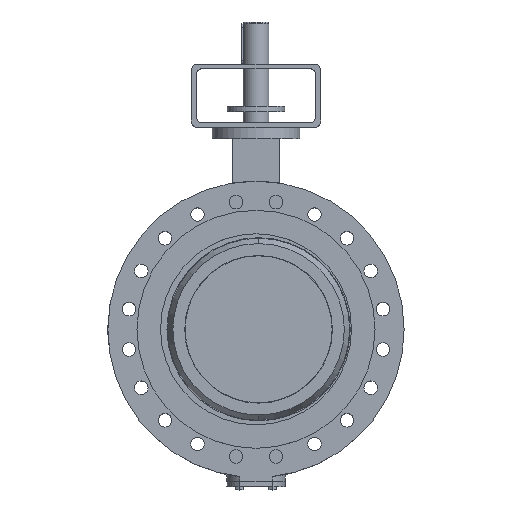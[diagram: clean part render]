
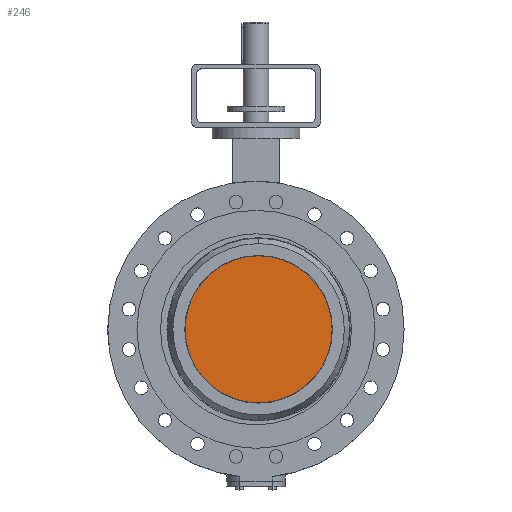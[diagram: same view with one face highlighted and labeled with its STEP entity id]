
A CAD part, top view. The second image highlights one B-rep face of the part: STEP entity #246.
In plain terms, the highlighted planar face has unit normal (0, 0, 1).
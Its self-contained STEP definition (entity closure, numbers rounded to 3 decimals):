
#246 = ADVANCED_FACE( '', ( #697 ), #698, .T. );
#697 = FACE_OUTER_BOUND( '', #1271, .T. );
#698 = PLANE( '', #1272 );
#1271 = EDGE_LOOP( '', ( #2818, #2819 ) );
#1272 = AXIS2_PLACEMENT_3D( '', #2820, #2821, #2822 );
#2818 = ORIENTED_EDGE( '', *, *, #3584, .T. );
#2819 = ORIENTED_EDGE( '', *, *, #3952, .T. );
#2820 = CARTESIAN_POINT( '', ( 8., 113.5, 93.6 ) );
#2821 = DIRECTION( '', ( 0., 0., 1. ) );
#2822 = DIRECTION( '', ( 0., 1., 0. ) );
#3584 = EDGE_CURVE( '', #4333, #4337, #4339, .T. );
#3952 = EDGE_CURVE( '', #4337, #4333, #4945, .T. );
#4333 = VERTEX_POINT( '', #5588 );
#4337 = VERTEX_POINT( '', #5593 );
#4339 = CIRCLE( '', #5596, 227. );
#4945 = CIRCLE( '', #7141, 227. );
#5588 = CARTESIAN_POINT( '', ( 8., 227., 93.6 ) );
#5593 = CARTESIAN_POINT( '', ( 8., -227., 93.6 ) );
#5596 = AXIS2_PLACEMENT_3D( '', #7672, #7673, #7674 );
#7141 = AXIS2_PLACEMENT_3D( '', #8367, #8368, #8369 );
#7672 = CARTESIAN_POINT( '', ( 8., 0., 93.6 ) );
#7673 = DIRECTION( '', ( 0., 0., 1. ) );
#7674 = DIRECTION( '', ( 0., 1., 0. ) );
#8367 = CARTESIAN_POINT( '', ( 8., 0., 93.6 ) );
#8368 = DIRECTION( '', ( 0., 0., 1. ) );
#8369 = DIRECTION( '', ( 0., 1., 0. ) );
